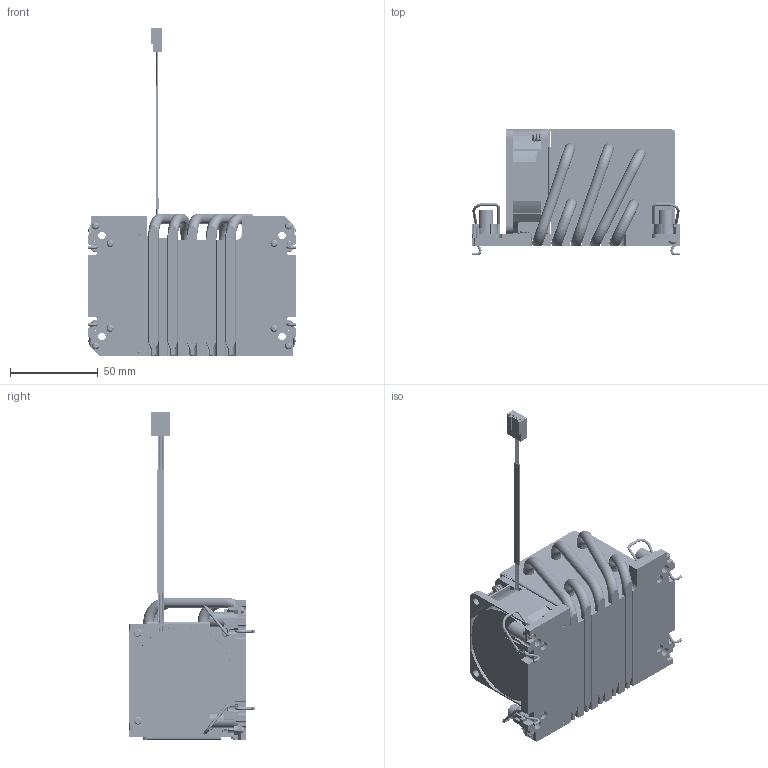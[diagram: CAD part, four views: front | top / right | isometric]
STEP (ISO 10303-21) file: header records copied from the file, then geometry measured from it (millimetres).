
FILE_DESCRIPTION((''),'2;1');
FILE_NAME('RGB220_ME_ASM','2022-10-05T',('User'),(''),'PRO/ENGINEER BY PARAMETRIC TECHNOLOGY CORPORATION, 2017170','PRO/ENGINEER BY PARAMETRIC TECHNOLOGY CORPORATION, 2017170','');
FILE_SCHEMA(('CONFIG_CONTROL_DESIGN'));
Products named in the file (7): MANIFOLD_SOLID_BREP_539_1_1; RGB220-N_1_ASM_1_ASM_1_ASM; FAN_PF60251BX-Q101-S99__1_1_1; LABEL_R24_1_1_1_1; T5_10L_SCREW_1_1; FAN_ASM_1_ASM_1_ASM_1_ASM; RGB220_ME_ASM
Assembly tree (9 placements, depth 3):
  RGB220_ME_ASM
    RGB220-N_1_ASM_1_ASM_1_ASM
      MANIFOLD_SOLID_BREP_539_1_1
    FAN_ASM_1_ASM_1_ASM_1_ASM
      FAN_PF60251BX-Q101-S99__1_1_1
      LABEL_R24_1_1_1_1
      T5_10L_SCREW_1_1  x4
Bounding box: 118.5 x 72.15 x 186.96 mm (x, y, z)
Volume: 327317.9 mm3; surface area: 403917.7 mm2
Topology: 7 solids, 253 shells, 8781 faces, 26074 edges, 17507 vertices
Faces by surface type: plane 5222, cylinder 2463, torus 659, cone 231, extrusion 121, bspline 81, sphere 4
Entity records: 306480 total; most frequent: CARTESIAN_POINT 71881, ORIENTED_EDGE 48985, DIRECTION 47812, EDGE_CURVE 25784, VERTEX_POINT 17312, VECTOR 17198, LINE 17077, AXIS2_PLACEMENT_3D 15307
